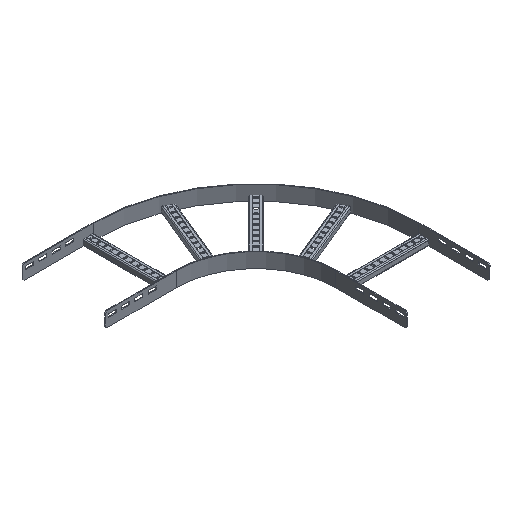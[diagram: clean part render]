
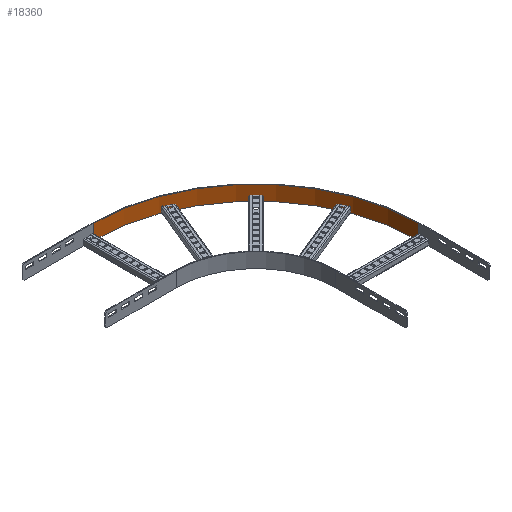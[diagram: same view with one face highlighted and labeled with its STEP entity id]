
A CAD part, isometric view. The second image highlights one B-rep face of the part: STEP entity #18360.
In plain terms, the highlighted cylindrical face has radius 605 mm (diameter 1210 mm), a partial arc.
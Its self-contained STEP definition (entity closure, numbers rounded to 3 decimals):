
#15880=CARTESIAN_POINT('',(605.,-608.,-90.));
#15890=VERTEX_POINT('',#15880);
#15920=CARTESIAN_POINT('',(0.,-608.,-90.));
#15930=DIRECTION('',(0.,0.,1.));
#15940=DIRECTION('',(0.,-1.,0.));
#15950=AXIS2_PLACEMENT_3D('',#15920,#15930,#15940);
#15960=CIRCLE('',#15950,605.);
#15970=CARTESIAN_POINT('',(0.,-3.,-90.));
#15980=VERTEX_POINT('',#15970);
#15990=EDGE_CURVE('',#15890,#15980,#15960,.T.);
#18050=CARTESIAN_POINT('',(0.,-608.,-90.));
#18060=DIRECTION('',(0.,0.,1.));
#18070=DIRECTION('',(0.,-1.,0.));
#18080=AXIS2_PLACEMENT_3D('',#18050,#18060,#18070);
#18090=CYLINDRICAL_SURFACE('',#18080,605.);
#18100=ORIENTED_EDGE('',*,*,#15990,.T.);
#18110=CARTESIAN_POINT('',(605.,-608.,0.));
#18120=DIRECTION('',(0.,0.,1.));
#18130=VECTOR('',#18120,1.);
#18140=LINE('',#18110,#18130);
#18150=CARTESIAN_POINT('',(605.,-608.,-145.));
#18160=VERTEX_POINT('',#18150);
#18170=EDGE_CURVE('',#18160,#15890,#18140,.T.);
#18180=ORIENTED_EDGE('',*,*,#18170,.T.);
#18190=CARTESIAN_POINT('',(0.,-608.,-145.));
#18200=DIRECTION('',(0.,0.,1.));
#18210=DIRECTION('',(0.,-1.,0.));
#18220=AXIS2_PLACEMENT_3D('',#18190,#18200,#18210);
#18230=CIRCLE('',#18220,605.);
#18240=CARTESIAN_POINT('',(0.,-3.,-145.));
#18250=VERTEX_POINT('',#18240);
#18260=EDGE_CURVE('',#18160,#18250,#18230,.T.);
#18270=ORIENTED_EDGE('',*,*,#18260,.F.);
#18280=CARTESIAN_POINT('',(0.,-3.,0.));
#18290=DIRECTION('',(0.,0.,1.));
#18300=VECTOR('',#18290,1.);
#18310=LINE('',#18280,#18300);
#18320=EDGE_CURVE('',#18250,#15980,#18310,.T.);
#18330=ORIENTED_EDGE('',*,*,#18320,.F.);
#18340=EDGE_LOOP('',(#18330,#18270,#18180,#18100));
#18350=FACE_OUTER_BOUND('',#18340,.T.);
#18360=ADVANCED_FACE('',(#18350),#18090,.F.);
